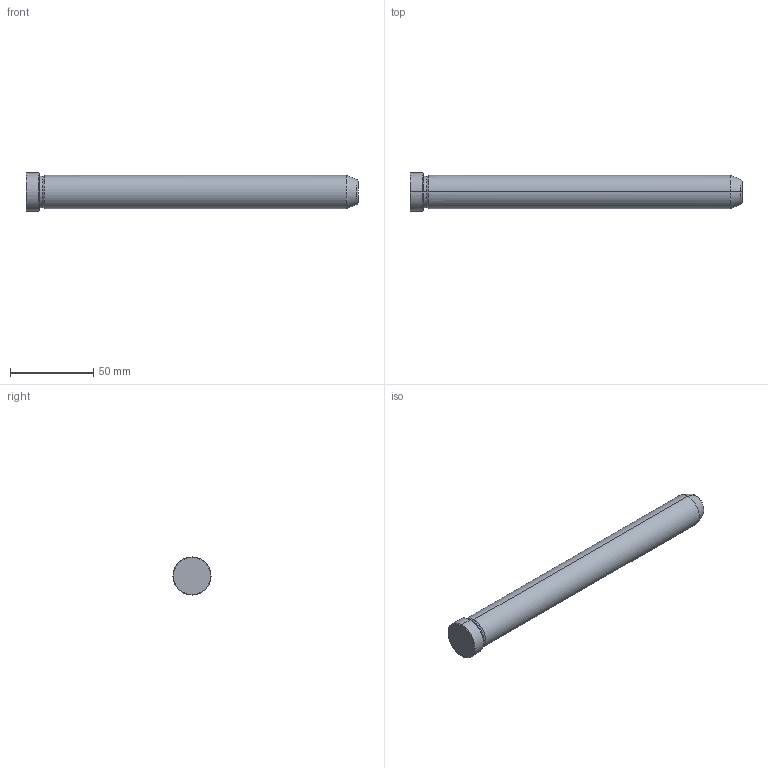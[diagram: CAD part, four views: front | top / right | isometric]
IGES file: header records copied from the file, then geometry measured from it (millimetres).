
Start section: START RECORD GO HERE.
Global section: file name: 549-20X200.igs; native system: DASSAULT SYSTEMES CATIA V5 R20 - www.3ds.com; preprocessor: CATIA Version 5 Release 20 ; author: Utente; organization: NB04-ASUS; date: 20211211.104959; units: millimetre
Bounding box: 200 x 23 x 23 mm (x, y, z)
Surface area: 13285.7 mm2 (no closed solid volume)
Topology: 0 solids, 0 shells, 19 faces, 112 edges, 112 vertices
Faces by surface type: revolution 16, plane 3
